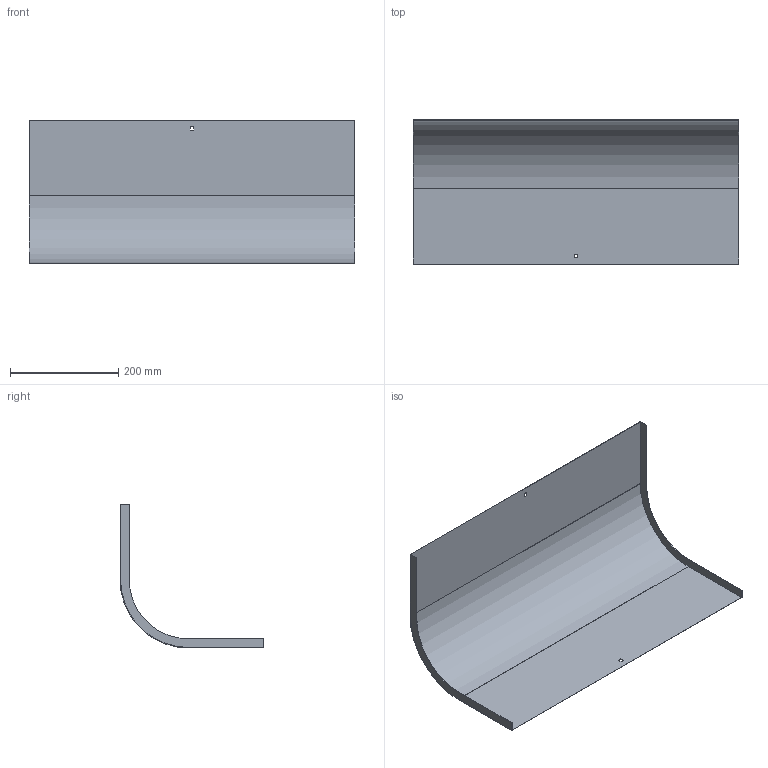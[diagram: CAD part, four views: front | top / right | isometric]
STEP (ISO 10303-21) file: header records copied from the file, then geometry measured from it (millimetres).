
FILE_DESCRIPTION (( 'STEP AP214' ), '1' );
FILE_NAME ('OD9_601.step', '2025-07-16T09:13:49', ( '' ), ( '' ), 'SwSTEP 2.0', 'SolidWorks 2023', '' );
FILE_SCHEMA (( 'AUTOMOTIVE_DESIGN' ));
Length unit declared in the file: millimetre
Products named in the file (1): OD9_601
Bounding box: 602 x 266 x 266 mm (x, y, z)
Volume: 301992.3 mm3; surface area: 606208.6 mm2
Topology: 1 solids, 1 shells, 26 faces, 72 edges, 48 vertices
Faces by surface type: plane 22, cylinder 4
Entity records: 855 total; most frequent: CARTESIAN_POINT 147, ORIENTED_EDGE 144, DIRECTION 134, EDGE_CURVE 72, VECTOR 64, LINE 64, VERTEX_POINT 48, AXIS2_PLACEMENT_3D 35
